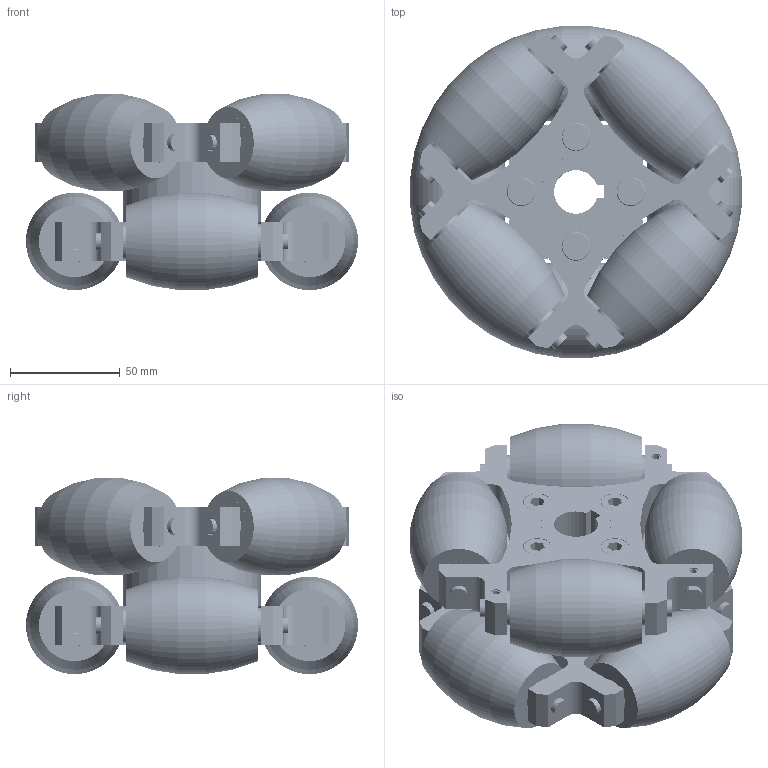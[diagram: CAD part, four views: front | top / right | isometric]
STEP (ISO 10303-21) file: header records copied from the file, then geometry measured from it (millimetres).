
FILE_DESCRIPTION (( 'STEP AP214' ), '1' );
FILE_NAME ('NW152A-4煦90僅 蚾饜.STEP', '2018-12-26T06:52:15', ( 'Windows 蚚誧' ), ( '' ), 'SwSTEP 2.0', 'SolidWorks 2018', '' );
FILE_SCHEMA (( 'AUTOMOTIVE_DESIGN' ));
Length unit declared in the file: millimetre
Products named in the file (11): NW152A-4-嫖粣; NW152A-深沟球轴承(698ZZ)8X19X6; NW152A-4煦90僅 蚾饜; NW152A-M8X30; NW152A-M5儂譙; NW152A-3-謫郋; NW152A-す菜; NW152A-1-謫殤; NW152A-2-笢陑璃; NW152A-3-婦蝶謫; NW152A-M8粟銅菜
Assembly tree (99 placements, depth 2):
  NW152A-4煦90僅 蚾饜
    NW152A-2-笢陑璃
    NW152A-1-謫殤  x2
    NW152A-3-婦蝶謫  x8
    NW152A-3-謫郋  x8
    NW152A-深沟球轴承(698ZZ)8X19X6  x32
    NW152A-4-嫖粣  x8
    NW152A-す菜  x16
    NW152A-M8粟銅菜  x8
    NW152A-M8X30  x8
    NW152A-M5儂譙  x8
Bounding box: 151.4 x 151.4 x 89.5 mm (x, y, z)
Volume: 888778.2 mm3; surface area: 357898.5 mm2
Topology: 387 solids, 387 shells, 2744 faces, 6528 edges, 4112 vertices
Faces by surface type: cylinder 845, torus 720, plane 523, sphere 512, cone 144
Entity records: 9938 total; most frequent: DIRECTION 1721, CARTESIAN_POINT 1695, ORIENTED_EDGE 1282, AXIS2_PLACEMENT_3D 720, EDGE_CURVE 641, VERTEX_POINT 418, EDGE_LOOP 349, CIRCLE 344
